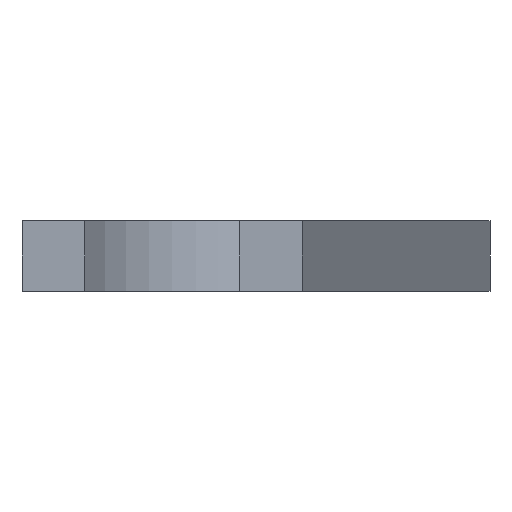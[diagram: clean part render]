
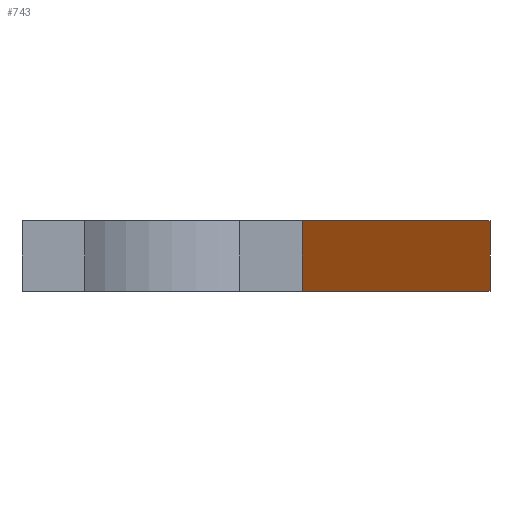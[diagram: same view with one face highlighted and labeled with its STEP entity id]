
A CAD part, front view. The second image highlights one B-rep face of the part: STEP entity #743.
In plain terms, the highlighted planar face has unit normal (0.999, -0.054, 0).
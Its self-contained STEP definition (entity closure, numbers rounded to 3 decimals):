
#22 = VERTEX_POINT('',#23);
#23 = CARTESIAN_POINT('',(5.719,-5.319,9.));
#32 = PLANE('',#33);
#33 = AXIS2_PLACEMENT_3D('',#34,#35,#36);
#34 = CARTESIAN_POINT('',(5.719,-5.319,6.));
#35 = DIRECTION('',(0.054,0.999,0.));
#36 = DIRECTION('',(0.,0.,1.));
#44 = PLANE('',#45);
#45 = AXIS2_PLACEMENT_3D('',#46,#47,#48);
#46 = CARTESIAN_POINT('',(5.719,-5.319,9.));
#47 = DIRECTION('',(0.,0.,1.));
#48 = DIRECTION('',(0.054,0.999,0.));
#56 = EDGE_CURVE('',#57,#22,#59,.T.);
#57 = VERTEX_POINT('',#58);
#58 = CARTESIAN_POINT('',(5.719,-5.319,6.));
#59 = SURFACE_CURVE('',#60,(#64,#71),.PCURVE_S1.);
#60 = LINE('',#61,#62);
#61 = CARTESIAN_POINT('',(5.719,-5.319,6.));
#62 = VECTOR('',#63,1.);
#63 = DIRECTION('',(0.,0.,1.));
#64 = PCURVE('',#32,#65);
#65 = DEFINITIONAL_REPRESENTATION('',(#66),#70);
#66 = LINE('',#67,#68);
#67 = CARTESIAN_POINT('',(0.,0.));
#68 = VECTOR('',#69,1.);
#69 = DIRECTION('',(1.,0.));
#70 = ( GEOMETRIC_REPRESENTATION_CONTEXT(2) 
PARAMETRIC_REPRESENTATION_CONTEXT() REPRESENTATION_CONTEXT('2D SPACE',''
  ) );
#71 = PCURVE('',#72,#77);
#72 = PLANE('',#73);
#73 = AXIS2_PLACEMENT_3D('',#74,#75,#76);
#74 = CARTESIAN_POINT('',(5.719,-5.319,6.));
#75 = DIRECTION('',(-0.999,0.054,0.));
#76 = DIRECTION('',(0.,0.,1.));
#77 = DEFINITIONAL_REPRESENTATION('',(#78),#82);
#78 = LINE('',#79,#80);
#79 = CARTESIAN_POINT('',(0.,0.));
#80 = VECTOR('',#81,1.);
#81 = DIRECTION('',(1.,0.));
#82 = ( GEOMETRIC_REPRESENTATION_CONTEXT(2) 
PARAMETRIC_REPRESENTATION_CONTEXT() REPRESENTATION_CONTEXT('2D SPACE',''
  ) );
#100 = PLANE('',#101);
#101 = AXIS2_PLACEMENT_3D('',#102,#103,#104);
#102 = CARTESIAN_POINT('',(5.719,-5.319,6.));
#103 = DIRECTION('',(0.,0.,1.));
#104 = DIRECTION('',(0.054,0.999,0.));
#140 = EDGE_CURVE('',#22,#141,#143,.T.);
#141 = VERTEX_POINT('',#142);
#142 = CARTESIAN_POINT('',(13.763,142.166,9.));
#143 = SURFACE_CURVE('',#144,(#148,#155),.PCURVE_S1.);
#144 = LINE('',#145,#146);
#145 = CARTESIAN_POINT('',(5.719,-5.319,9.));
#146 = VECTOR('',#147,1.);
#147 = DIRECTION('',(0.054,0.999,0.));
#148 = PCURVE('',#44,#149);
#149 = DEFINITIONAL_REPRESENTATION('',(#150),#154);
#150 = LINE('',#151,#152);
#151 = CARTESIAN_POINT('',(0.,0.));
#152 = VECTOR('',#153,1.);
#153 = DIRECTION('',(1.,0.));
#154 = ( GEOMETRIC_REPRESENTATION_CONTEXT(2) 
PARAMETRIC_REPRESENTATION_CONTEXT() REPRESENTATION_CONTEXT('2D SPACE',''
  ) );
#155 = PCURVE('',#72,#156);
#156 = DEFINITIONAL_REPRESENTATION('',(#157),#161);
#157 = LINE('',#158,#159);
#158 = CARTESIAN_POINT('',(3.,0.));
#159 = VECTOR('',#160,1.);
#160 = DIRECTION('',(0.,1.));
#161 = ( GEOMETRIC_REPRESENTATION_CONTEXT(2) 
PARAMETRIC_REPRESENTATION_CONTEXT() REPRESENTATION_CONTEXT('2D SPACE',''
  ) );
#179 = PLANE('',#180);
#180 = AXIS2_PLACEMENT_3D('',#181,#182,#183);
#181 = CARTESIAN_POINT('',(13.763,142.166,6.));
#182 = DIRECTION('',(0.054,0.999,0.));
#183 = DIRECTION('',(0.,0.,1.));
#502 = EDGE_CURVE('',#503,#57,#505,.T.);
#503 = VERTEX_POINT('',#504);
#504 = CARTESIAN_POINT('',(13.763,142.166,6.));
#505 = SURFACE_CURVE('',#506,(#510,#517),.PCURVE_S1.);
#506 = LINE('',#507,#508);
#507 = CARTESIAN_POINT('',(13.763,142.166,6.));
#508 = VECTOR('',#509,1.);
#509 = DIRECTION('',(-0.054,-0.999,0.));
#510 = PCURVE('',#100,#511);
#511 = DEFINITIONAL_REPRESENTATION('',(#512),#516);
#512 = LINE('',#513,#514);
#513 = CARTESIAN_POINT('',(147.704,0.));
#514 = VECTOR('',#515,1.);
#515 = DIRECTION('',(-1.,0.));
#516 = ( GEOMETRIC_REPRESENTATION_CONTEXT(2) 
PARAMETRIC_REPRESENTATION_CONTEXT() REPRESENTATION_CONTEXT('2D SPACE',''
  ) );
#517 = PCURVE('',#72,#518);
#518 = DEFINITIONAL_REPRESENTATION('',(#519),#523);
#519 = LINE('',#520,#521);
#520 = CARTESIAN_POINT('',(0.,147.704));
#521 = VECTOR('',#522,1.);
#522 = DIRECTION('',(0.,-1.));
#523 = ( GEOMETRIC_REPRESENTATION_CONTEXT(2) 
PARAMETRIC_REPRESENTATION_CONTEXT() REPRESENTATION_CONTEXT('2D SPACE',''
  ) );
#743 = ADVANCED_FACE('',(#744),#72,.F.);
#744 = FACE_BOUND('',#745,.F.);
#745 = EDGE_LOOP('',(#746,#747,#748,#769));
#746 = ORIENTED_EDGE('',*,*,#56,.T.);
#747 = ORIENTED_EDGE('',*,*,#140,.T.);
#748 = ORIENTED_EDGE('',*,*,#749,.F.);
#749 = EDGE_CURVE('',#503,#141,#750,.T.);
#750 = SURFACE_CURVE('',#751,(#755,#762),.PCURVE_S1.);
#751 = LINE('',#752,#753);
#752 = CARTESIAN_POINT('',(13.763,142.166,6.));
#753 = VECTOR('',#754,1.);
#754 = DIRECTION('',(0.,0.,1.));
#755 = PCURVE('',#72,#756);
#756 = DEFINITIONAL_REPRESENTATION('',(#757),#761);
#757 = LINE('',#758,#759);
#758 = CARTESIAN_POINT('',(0.,147.704));
#759 = VECTOR('',#760,1.);
#760 = DIRECTION('',(1.,0.));
#761 = ( GEOMETRIC_REPRESENTATION_CONTEXT(2) 
PARAMETRIC_REPRESENTATION_CONTEXT() REPRESENTATION_CONTEXT('2D SPACE',''
  ) );
#762 = PCURVE('',#179,#763);
#763 = DEFINITIONAL_REPRESENTATION('',(#764),#768);
#764 = LINE('',#765,#766);
#765 = CARTESIAN_POINT('',(0.,0.));
#766 = VECTOR('',#767,1.);
#767 = DIRECTION('',(1.,0.));
#768 = ( GEOMETRIC_REPRESENTATION_CONTEXT(2) 
PARAMETRIC_REPRESENTATION_CONTEXT() REPRESENTATION_CONTEXT('2D SPACE',''
  ) );
#769 = ORIENTED_EDGE('',*,*,#502,.T.);
